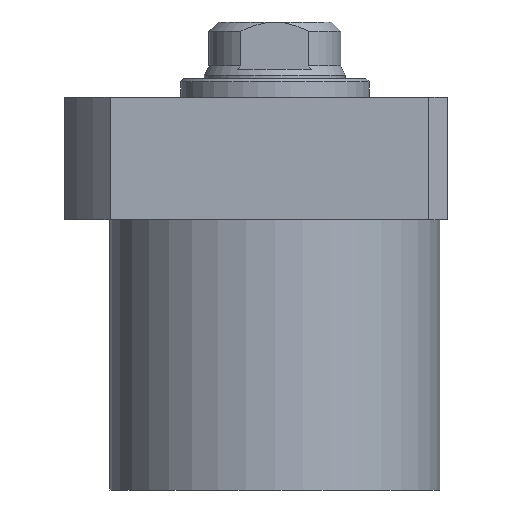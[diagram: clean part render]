
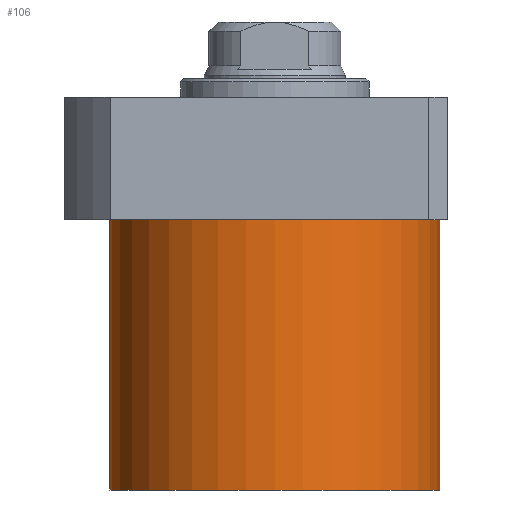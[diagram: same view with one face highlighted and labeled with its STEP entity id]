
A CAD part, front view. The second image highlights one B-rep face of the part: STEP entity #106.
In plain terms, the highlighted cylindrical face has radius 52.5 mm (diameter 105 mm), a partial arc.
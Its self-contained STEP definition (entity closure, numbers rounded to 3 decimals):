
#5 = ORIENTED_EDGE ( 'NONE', *, *, #1115, .T. ) ;
#52 = DIRECTION ( 'NONE',  ( -1., 0., 0. ) ) ;
#106 = ADVANCED_FACE ( 'NONE', ( #753 ), #1522, .T. ) ;
#243 = CARTESIAN_POINT ( 'NONE',  ( -52.5, 0., -105.5 ) ) ;
#285 = AXIS2_PLACEMENT_3D ( 'NONE', #1056, #313, #1647 ) ;
#294 = CARTESIAN_POINT ( 'NONE',  ( 0., 0., -105.5 ) ) ;
#310 = CARTESIAN_POINT ( 'NONE',  ( 52.5, 0., -105.5 ) ) ;
#313 = DIRECTION ( 'NONE',  ( 0., 0., -1. ) ) ;
#340 = LINE ( 'NONE', #644, #1483 ) ;
#360 = DIRECTION ( 'NONE',  ( 0., 0., 1. ) ) ;
#398 = EDGE_LOOP ( 'NONE', ( #1378, #1229, #431, #5 ) ) ;
#406 = DIRECTION ( 'NONE',  ( 0., 0., 1. ) ) ;
#431 = ORIENTED_EDGE ( 'NONE', *, *, #1017, .T. ) ;
#503 = VECTOR ( 'NONE', #406, 1000. ) ;
#602 = VERTEX_POINT ( 'NONE', #243 ) ;
#644 = CARTESIAN_POINT ( 'NONE',  ( 52.5, 0., -105.5 ) ) ;
#658 = CARTESIAN_POINT ( 'NONE',  ( 0., 0., -105.5 ) ) ;
#675 = CIRCLE ( 'NONE', #1083, 52.5 ) ;
#741 = DIRECTION ( 'NONE',  ( 0., 0., 1. ) ) ;
#753 = FACE_OUTER_BOUND ( 'NONE', #398, .T. ) ;
#885 = CARTESIAN_POINT ( 'NONE',  ( 52.5, 0., -19.5 ) ) ;
#912 = VERTEX_POINT ( 'NONE', #310 ) ;
#1017 = EDGE_CURVE ( 'NONE', #912, #1667, #340, .T. ) ;
#1056 = CARTESIAN_POINT ( 'NONE',  ( 0., 0., -19.5 ) ) ;
#1083 = AXIS2_PLACEMENT_3D ( 'NONE', #658, #1270, #52 ) ;
#1115 = EDGE_CURVE ( 'NONE', #1667, #1123, #1364, .T. ) ;
#1123 = VERTEX_POINT ( 'NONE', #1212 ) ;
#1142 = CARTESIAN_POINT ( 'NONE',  ( -52.5, 0., -105.5 ) ) ;
#1157 = LINE ( 'NONE', #1142, #503 ) ;
#1188 = DIRECTION ( 'NONE',  ( 1., 0., 0. ) ) ;
#1212 = CARTESIAN_POINT ( 'NONE',  ( -52.5, 0., -19.5 ) ) ;
#1214 = AXIS2_PLACEMENT_3D ( 'NONE', #294, #741, #1188 ) ;
#1222 = EDGE_CURVE ( 'NONE', #912, #602, #675, .T. ) ;
#1229 = ORIENTED_EDGE ( 'NONE', *, *, #1222, .F. ) ;
#1270 = DIRECTION ( 'NONE',  ( 0., 0., -1. ) ) ;
#1318 = EDGE_CURVE ( 'NONE', #602, #1123, #1157, .T. ) ;
#1364 = CIRCLE ( 'NONE', #285, 52.5 ) ;
#1378 = ORIENTED_EDGE ( 'NONE', *, *, #1318, .F. ) ;
#1483 = VECTOR ( 'NONE', #360, 1000. ) ;
#1522 = CYLINDRICAL_SURFACE ( 'NONE', #1214, 52.5 ) ;
#1647 = DIRECTION ( 'NONE',  ( 1., 0., 0. ) ) ;
#1667 = VERTEX_POINT ( 'NONE', #885 ) ;
